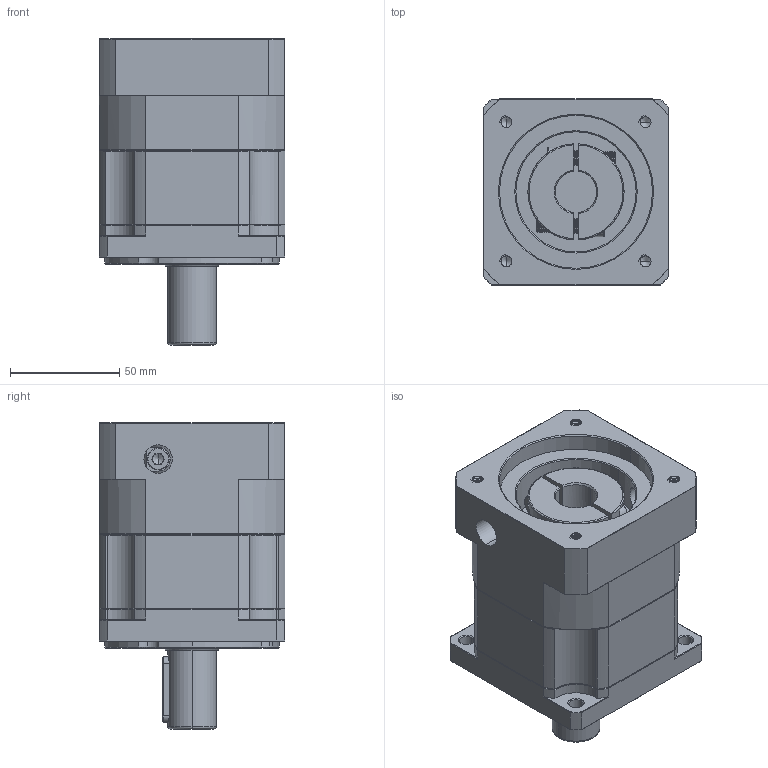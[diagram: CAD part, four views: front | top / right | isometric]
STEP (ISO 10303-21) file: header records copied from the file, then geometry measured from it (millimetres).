
FILE_DESCRIPTION (( 'STEP AP214' ), '1' );
FILE_NAME ('ZB90-D22-L1-19-70-90-M6.STEP', '2022-05-02T15:47:24', ( '' ), ( 'Microsoft' ), 'SwSTEP 2.0', 'SolidWorks 2016', '' );
FILE_SCHEMA (( 'AUTOMOTIVE_DESIGN' ));
Length unit declared in the file: millimetre
Products named in the file (1): ZB90-D22-L1-19-70-90-M6
Bounding box: 85 x 85 x 140 mm (x, y, z)
Volume: 610161.3 mm3; surface area: 85040.6 mm2
Topology: 4 solids, 4 shells, 1911 faces, 5026 edges, 3192 vertices
Faces by surface type: plane 876, cylinder 390, cone 319, bspline 314, torus 12
Entity records: 103977 total; most frequent: CARTESIAN_POINT 38600, ORIENTED_EDGE 10008, DIRECTION 8025, EDGE_CURVE 5004, VERTEX_POINT 3192, VECTOR 3083, LINE 3083, AXIS2_PLACEMENT_3D 2471
